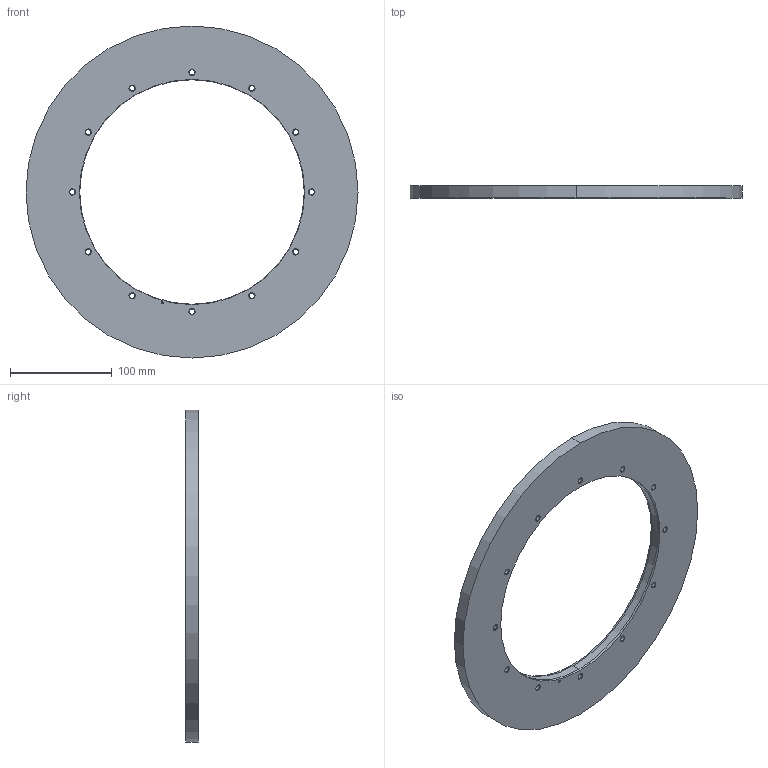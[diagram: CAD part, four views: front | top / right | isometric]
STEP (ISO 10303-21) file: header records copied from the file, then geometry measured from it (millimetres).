
FILE_DESCRIPTION (( 'STEP AP214' ), '1' );
FILE_NAME ('SAR325_exposed.STEP', '2024-02-02T10:52:33', ( '' ), ( '' ), 'SwSTEP 2.0', 'SolidWorks 2022', '' );
FILE_SCHEMA (( 'AUTOMOTIVE_DESIGN' ));
Length unit declared in the file: millimetre
Products named in the file (1): SAR325_exposed
Bounding box: 325.5 x 12 x 325.5 mm (x, y, z)
Volume: 533636.2 mm3; surface area: 113640.9 mm2
Topology: 1 solids, 1 shells, 882 faces, 2359 edges, 1552 vertices
Faces by surface type: plane 660, bspline 86, cylinder 80, cone 56
Entity records: 31239 total; most frequent: CARTESIAN_POINT 9504, ORIENTED_EDGE 4710, DIRECTION 3989, EDGE_CURVE 2355, LINE 1971, VECTOR 1971, VERTEX_POINT 1552, AXIS2_PLACEMENT_3D 1009
